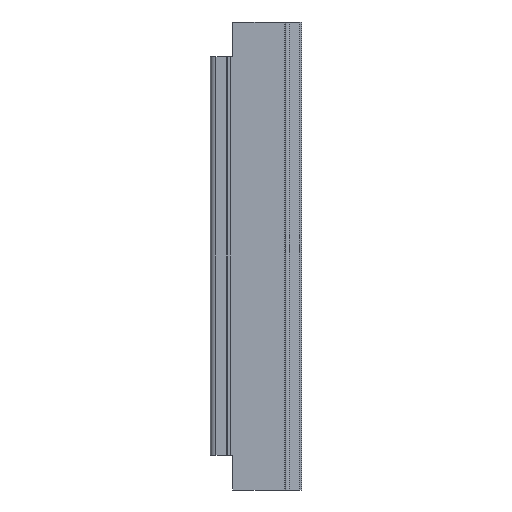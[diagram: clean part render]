
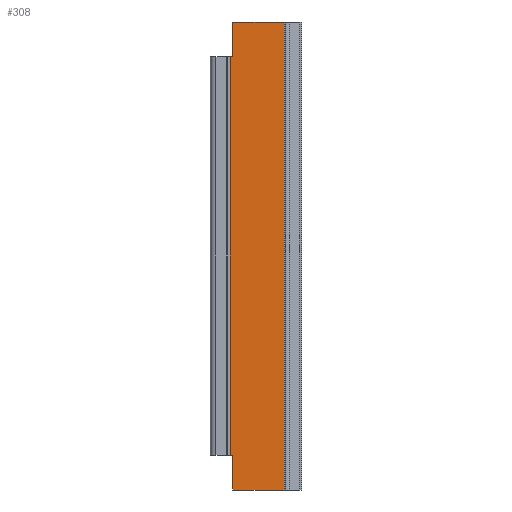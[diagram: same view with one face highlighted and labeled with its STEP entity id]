
A CAD part, left-side view. The second image highlights one B-rep face of the part: STEP entity #308.
In plain terms, the highlighted planar face has unit normal (-1, 0, 0).
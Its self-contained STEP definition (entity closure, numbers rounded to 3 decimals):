
#4 = VERTEX_POINT ( 'NONE', #70 ) ;
#6 = VERTEX_POINT ( 'NONE', #71 ) ;
#12 = VERTEX_POINT ( 'NONE', #76 ) ;
#15 = VERTEX_POINT ( 'NONE', #79 ) ;
#51 = VERTEX_POINT ( 'NONE', #111 ) ;
#53 = VERTEX_POINT ( 'NONE', #113 ) ;
#54 = VERTEX_POINT ( 'NONE', #114 ) ;
#56 = VERTEX_POINT ( 'NONE', #116 ) ;
#70 = CARTESIAN_POINT ( 'NONE',  ( -2.8, -17.7, 456.5 ) ) ;
#71 = CARTESIAN_POINT ( 'NONE',  ( -2.8, -14.928, 36.5 ) ) ;
#76 = CARTESIAN_POINT ( 'NONE',  ( -2.8, -14.928, 456.5 ) ) ;
#79 = CARTESIAN_POINT ( 'NONE',  ( -2.8, -17.7, 36.5 ) ) ;
#111 = CARTESIAN_POINT ( 'NONE',  ( -2.8, -17.7, 493. ) ) ;
#113 = CARTESIAN_POINT ( 'NONE',  ( -2.8, -17.7, 0. ) ) ;
#114 = CARTESIAN_POINT ( 'NONE',  ( -2.8, -72.063, 493. ) ) ;
#116 = CARTESIAN_POINT ( 'NONE',  ( -2.8, -72.063, 0. ) ) ;
#171 = PLANE ( 'NONE',  #957 ) ;
#174 = CARTESIAN_POINT ( 'NONE',  ( -2.8, -14.555, 493. ) ) ;
#183 = DIRECTION ( 'NONE',  ( 1., 0., 0. ) ) ;
#184 = DIRECTION ( 'NONE',  ( 0., 1., 0. ) ) ;
#308 = ADVANCED_FACE ( 'NONE', ( #478 ), #171, .F. ) ;
#313 = LINE ( 'NONE', #1212, #904 ) ;
#328 = VECTOR ( 'NONE', #1197, 1000. ) ;
#329 = LINE ( 'NONE', #1196, #328 ) ;
#356 = VECTOR ( 'NONE', #1160, 1000. ) ;
#365 = LINE ( 'NONE', #1155, #356 ) ;
#376 = VECTOR ( 'NONE', #1139, 1000. ) ;
#377 = LINE ( 'NONE', #1138, #376 ) ;
#403 = VECTOR ( 'NONE', #1106, 1000. ) ;
#406 = VECTOR ( 'NONE', #1102, 1000. ) ;
#407 = LINE ( 'NONE', #1103, #403 ) ;
#413 = LINE ( 'NONE', #1099, #406 ) ;
#415 = VECTOR ( 'NONE', #1093, 1000. ) ;
#418 = LINE ( 'NONE', #828, #415 ) ;
#478 = FACE_OUTER_BOUND ( 'NONE', #775, .T. ) ;
#647 = ORIENTED_EDGE ( 'NONE', *, *, #1012, .T. ) ;
#648 = ORIENTED_EDGE ( 'NONE', *, *, #987, .T. ) ;
#649 = ORIENTED_EDGE ( 'NONE', *, *, #981, .T. ) ;
#650 = ORIENTED_EDGE ( 'NONE', *, *, #1035, .T. ) ;
#651 = ORIENTED_EDGE ( 'NONE', *, *, #1076, .T. ) ;
#652 = ORIENTED_EDGE ( 'NONE', *, *, #1027, .T. ) ;
#653 = ORIENTED_EDGE ( 'NONE', *, *, #1002, .T. ) ;
#654 = ORIENTED_EDGE ( 'NONE', *, *, #985, .F. ) ;
#775 = EDGE_LOOP ( 'NONE', ( #647, #648, #649, #650, #651, #652, #653, #654 ) ) ;
#828 = CARTESIAN_POINT ( 'NONE',  ( -2.8, -14.928, 493. ) ) ;
#834 = LINE ( 'NONE', #1289, #835 ) ;
#835 = VECTOR ( 'NONE', #1290, 1000. ) ;
#904 = VECTOR ( 'NONE', #1213, 1000. ) ;
#957 = AXIS2_PLACEMENT_3D ( 'NONE', #174, #183, #184 ) ;
#981 = EDGE_CURVE ( 'NONE', #12, #6, #418, .T. ) ;
#985 = EDGE_CURVE ( 'NONE', #51, #54, #413, .T. ) ;
#987 = EDGE_CURVE ( 'NONE', #4, #12, #407, .T. ) ;
#1002 = EDGE_CURVE ( 'NONE', #56, #54, #377, .T. ) ;
#1012 = EDGE_CURVE ( 'NONE', #51, #4, #365, .T. ) ;
#1027 = EDGE_CURVE ( 'NONE', #53, #56, #329, .T. ) ;
#1035 = EDGE_CURVE ( 'NONE', #6, #15, #313, .T. ) ;
#1076 = EDGE_CURVE ( 'NONE', #15, #53, #834, .T. ) ;
#1093 = DIRECTION ( 'NONE',  ( 0., 0., -1. ) ) ;
#1099 = CARTESIAN_POINT ( 'NONE',  ( -2.8, -14.555, 493. ) ) ;
#1102 = DIRECTION ( 'NONE',  ( 0., -1., 0. ) ) ;
#1103 = CARTESIAN_POINT ( 'NONE',  ( -2.8, -14.555, 456.5 ) ) ;
#1106 = DIRECTION ( 'NONE',  ( 0., 1., 0. ) ) ;
#1138 = CARTESIAN_POINT ( 'NONE',  ( -2.8, -72.063, 493. ) ) ;
#1139 = DIRECTION ( 'NONE',  ( 0., 0., 1. ) ) ;
#1155 = CARTESIAN_POINT ( 'NONE',  ( -2.8, -17.7, 493. ) ) ;
#1160 = DIRECTION ( 'NONE',  ( 0., 0., -1. ) ) ;
#1196 = CARTESIAN_POINT ( 'NONE',  ( -2.8, -14.555, 0. ) ) ;
#1197 = DIRECTION ( 'NONE',  ( 0., -1., 0. ) ) ;
#1212 = CARTESIAN_POINT ( 'NONE',  ( -2.8, -14.555, 36.5 ) ) ;
#1213 = DIRECTION ( 'NONE',  ( 0., -1., 0. ) ) ;
#1289 = CARTESIAN_POINT ( 'NONE',  ( -2.8, -17.7, 493. ) ) ;
#1290 = DIRECTION ( 'NONE',  ( 0., 0., -1. ) ) ;
